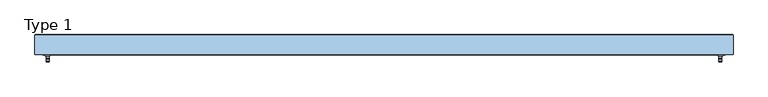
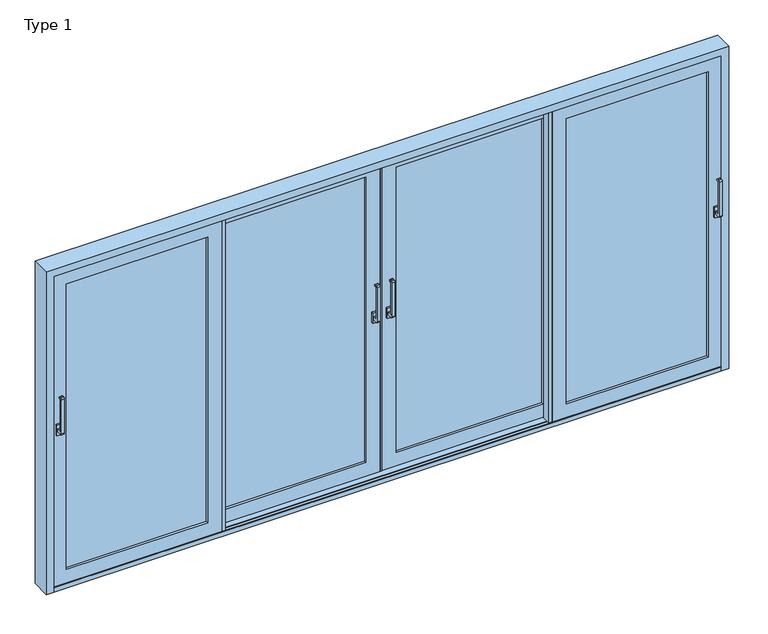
"""IFC4 building model written with IfcOpenShell, lengths in millimetres: window geometry, ETEM_E50_Quadruple_Lift_Sliding_FR : Type 1."""

import ifcopenshell
import ifcopenshell.guid

model = None  # the IFC model being written
_history = None  # IfcOwnerHistory: only IFC2X3 demands one
_inside = {}  # id of a spatial element -> (the spatial element, [elements in it])
_under = {}  # id of a project, library or spatial element -> (it, [spatial elements below it])
_declared = {}  # id of a project -> (the project, [libraries it declares])
_typed = {}  # id of a type object -> (the type object, [elements of that type])
_made_of = {}  # id of a material, layer set ... -> (it, [elements and type objects made of it])


def new_model(schema):
    """Start an empty IFC model of exactly this schema.

    Asked for "IFC4X3", IfcOpenShell would pick the latest addendum, in which some entities
    have other attributes; the version numbers below select the first issue.
    IFC2X3 requires an IfcOwnerHistory on every rooted entity: one is made here for all.
    """
    global model, _history
    if schema == "IFC4X3":
        model = ifcopenshell.file(schema_version=(4, 3, 0, 0))
    else:
        model = ifcopenshell.file(schema=schema)
    _inside.clear()
    _under.clear()
    _declared.clear()
    _typed.clear()
    _made_of.clear()
    _history = None
    if model.schema == "IFC2X3":
        org = make("IfcOrganization", Name="unknown")
        user = make(
            "IfcPersonAndOrganization",
            ThePerson=make("IfcPerson", FamilyName="unknown"),
            TheOrganization=org,
        )
        app = make(
            "IfcApplication",
            ApplicationDeveloper=org,
            Version="unknown",
            ApplicationFullName="unknown",
            ApplicationIdentifier="unknown",
        )
        _history = make(
            "IfcOwnerHistory",
            OwningUser=user,
            OwningApplication=app,
            ChangeAction="ADDED",
            CreationDate=0,
        )
    return model


def make(cls, **values):
    """One entity of the class cls with the attributes given. An attribute that is None is left unset."""
    return model.create_entity(
        cls, **{name: value for name, value in values.items() if value is not None}
    )


def rooted(cls, **values):
    """An entity with a GlobalId (a new one), such as an element, a storey or a relation."""
    return make(cls, GlobalId=ifcopenshell.guid.new(), OwnerHistory=_history, **values)


def si_unit(unit_type, name, prefix=None):
    """IfcSIUnit, for example si_unit("LENGTHUNIT", "METRE", prefix="MILLI")."""
    return make("IfcSIUnit", UnitType=unit_type, Prefix=prefix, Name=name)


def assignment(units):
    """IfcUnitAssignment: the units of a project."""
    return None if units is None else make("IfcUnitAssignment", Units=units)


def point(xyz):
    """IfcCartesianPoint."""
    return None if xyz is None else make("IfcCartesianPoint", Coordinates=xyz)


def direction(xyz):
    """IfcDirection."""
    return None if xyz is None else make("IfcDirection", DirectionRatios=xyz)


def frame(location, z_axis=None, x_axis=None):
    """IfcAxis2Placement3D, a coordinate frame: its origin and axes. An axis left out is left unset."""
    return make(
        "IfcAxis2Placement3D",
        Location=point(location),
        Axis=direction(z_axis),
        RefDirection=direction(x_axis),
    )


def frame_2d(location, x_axis=None):
    """IfcAxis2Placement2D, a coordinate frame in the plane: its origin and x axis."""
    return make(
        "IfcAxis2Placement2D", Location=point(location), RefDirection=direction(x_axis)
    )


def origin():
    """The frame at (0, 0, 0) with its axes left unset."""
    return frame((0.0, 0.0, 0.0))


def place(relative_to, where):
    """IfcLocalPlacement: puts the frame where relative to a parent placement (None: the world)."""
    return make(
        "IfcLocalPlacement", PlacementRelTo=relative_to, RelativePlacement=where
    )


def context(
    kind, dimensions, precision=None, world=None, true_north=None, identifier=None
):
    """IfcGeometricRepresentationContext, for example the 3D "Model" context."""
    return make(
        "IfcGeometricRepresentationContext",
        ContextIdentifier=identifier,
        ContextType=kind,
        CoordinateSpaceDimension=dimensions,
        Precision=precision,
        WorldCoordinateSystem=world,
        TrueNorth=true_north,
    )


def project(units=None, contexts=None):
    """IfcProject with its units and contexts."""
    return rooted(
        "IfcProject",
        Name="project",
        RepresentationContexts=contexts,
        UnitsInContext=assignment(units),
    )


def spatial(cls, under=None, at=None, **own):
    """A site, building, storey or space (cls), placed at a placement, below another one or the project."""
    s = rooted(cls, ObjectPlacement=at, **own)
    if under is not None:
        _under.setdefault(under.id(), (under, []))[1].append(s)
    return s


def polyline(points):
    """IfcPolyline through the points."""
    return make("IfcPolyline", Points=[point(p) for p in points])


def circle_curve(where, radius):
    """IfcCircle in the frame where."""
    return make("IfcCircle", Position=where, Radius=radius)


def trimmed(basis, trim1, trim2, sense, master):
    """IfcTrimmedCurve: the piece of a basis curve between two trims."""
    return make(
        "IfcTrimmedCurve",
        BasisCurve=basis,
        Trim1=trim1,
        Trim2=trim2,
        SenseAgreement=sense,
        MasterRepresentation=master,
    )


def segment(curve, same_sense, transition):
    """IfcCompositeCurveSegment."""
    return make(
        "IfcCompositeCurveSegment",
        Transition=transition,
        SameSense=same_sense,
        ParentCurve=curve,
    )


def composite_curve(segments, self_intersect=None):
    """IfcCompositeCurve: segments joined end to end."""
    return make("IfcCompositeCurve", Segments=segments, SelfIntersect=self_intersect)


def outline(outer, holes=None, kind="AREA"):
    """IfcArbitraryClosedProfileDef: a profile drawn as a closed curve; with holes, ...WithVoids."""
    if holes is None:
        return make("IfcArbitraryClosedProfileDef", ProfileType=kind, OuterCurve=outer)
    return make(
        "IfcArbitraryProfileDefWithVoids",
        ProfileType=kind,
        OuterCurve=outer,
        InnerCurves=holes,
    )


def extrude(swept, where, along, depth):
    """IfcExtrudedAreaSolid: the profile swept, set in the frame where, extruded along a direction by depth."""
    return make(
        "IfcExtrudedAreaSolid",
        SweptArea=swept,
        Position=where,
        ExtrudedDirection=direction(along),
        Depth=depth,
    )


def faces_of(points, faces, orient=None, outer=None):
    """IfcFace entities. A face is a list of loops; a loop is a list of indices into points, from 0.

    orient and outer hold one flag for each loop. By default every Orientation is true, the
    first loop of a face is its IfcFaceOuterBound and the others are IfcFaceBound.
    """
    made = []
    for i, loops in enumerate(faces):
        bounds = []
        for j, loop in enumerate(loops):
            is_outer = j == 0 if outer is None else outer[i][j]
            bounds.append(
                make(
                    "IfcFaceOuterBound" if is_outer else "IfcFaceBound",
                    Bound=make("IfcPolyLoop", Polygon=[points[k] for k in loop]),
                    Orientation=True if orient is None else orient[i][j],
                )
            )
        made.append(make("IfcFace", Bounds=bounds))
    return made


def faceted_brep(points, faces, orient=None, outer=None, voids=None):
    """IfcFacetedBrep: a solid bounded by flat faces; with voids (closed shells), ...WithVoids."""
    shared = [point(p) for p in points]
    hull = make("IfcClosedShell", CfsFaces=faces_of(shared, faces, orient, outer))
    if voids is None:
        return make("IfcFacetedBrep", Outer=hull)
    return make(
        "IfcFacetedBrepWithVoids",
        Outer=hull,
        Voids=[
            make(cls, CfsFaces=faces_of(shared, fs, o, b)) for cls, fs, o, b in voids
        ],
    )


def shape(context_of_items, identifier, shape_type, items):
    """IfcShapeRepresentation: the items that make up one representation, for example the "Body"."""
    return make(
        "IfcShapeRepresentation",
        ContextOfItems=context_of_items,
        RepresentationIdentifier=identifier,
        RepresentationType=shape_type,
        Items=items,
    )


def source(mapping_origin, context_of_items, identifier, shape_type, items):
    """IfcRepresentationMap: a shape defined once, which mapped items show again and again."""
    return make(
        "IfcRepresentationMap",
        MappingOrigin=mapping_origin,
        MappedRepresentation=shape(context_of_items, identifier, shape_type, items),
    )


def transform(
    local_origin,
    x_axis=None,
    y_axis=None,
    z_axis=None,
    scale=None,
    scale2=None,
    scale3=None,
    uniform=True,
):
    """IfcCartesianTransformationOperator3D, or its non-uniform kind. x_axis, y_axis, z_axis: its Axis1, 2, 3."""
    if uniform:
        return make(
            "IfcCartesianTransformationOperator3D",
            Axis1=direction(x_axis),
            Axis2=direction(y_axis),
            LocalOrigin=point(local_origin),
            Scale=scale,
            Axis3=direction(z_axis),
        )
    return make(
        "IfcCartesianTransformationOperator3DnonUniform",
        Axis1=direction(x_axis),
        Axis2=direction(y_axis),
        LocalOrigin=point(local_origin),
        Scale=scale,
        Axis3=direction(z_axis),
        Scale2=scale2,
        Scale3=scale3,
    )


def mapped(mapping_source, mapping_target):
    """IfcMappedItem: shows the shape of a source again, moved by a transform."""
    return make(
        "IfcMappedItem", MappingSource=mapping_source, MappingTarget=mapping_target
    )


def made_of(thing, what):
    """Note that an element or type object is made of a material, layer set ...; save() writes the relation."""
    if what is not None:
        _made_of.setdefault(what.id(), (what, []))[1].append(thing)
    return thing


def element(
    cls,
    number,
    at=None,
    inside=None,
    cuts=None,
    type_object=None,
    material=None,
    context=None,
    identifier="Body",
    shape_type=None,
    held_by="IfcProductDefinitionShape",
    body=None,
    shapes=None,
    **own,
):
    """One element of the class cls, such as IfcWall. Its Tag is "e" and its number.

    at: its placement. inside: the storey or other place that contains it. cuts: it is an
    opening in that element (IfcRelVoidsElement). A single representation is given by context,
    identifier, shape_type and body (its items); several are given by shapes. held_by: the class
    of the entity that holds the representations. save() writes the other relations.
    """
    e = rooted(cls, Tag="e%d" % number, ObjectPlacement=at, **own)
    if body is not None:
        shapes = [shape(context, identifier, shape_type, body)]
    if shapes is not None:
        e.Representation = make(held_by, Representations=shapes)
    if inside is not None:
        _inside.setdefault(inside.id(), (inside, []))[1].append(e)
    if cuts is not None:
        rooted(
            "IfcRelVoidsElement", RelatingBuildingElement=cuts, RelatedOpeningElement=e
        )
    if type_object is not None:
        _typed.setdefault(type_object.id(), (type_object, []))[1].append(e)
    return made_of(e, material)


def aggregate(whole, parts):
    """IfcRelAggregates: a whole, such as a stair, and the parts it consists of."""
    return rooted("IfcRelAggregates", RelatingObject=whole, RelatedObjects=parts)


def save(model, path):
    """Write the relations noted so far, then the file.

    IfcRelAggregates (storeys below a building ...), IfcRelContainedInSpatialStructure (elements
    in a storey), IfcRelDefinesByType, IfcRelAssociatesMaterial and IfcRelDeclares: one each for
    every whole, place, type object, material and project.
    """
    for whole, parts in _under.values():
        aggregate(whole, parts)
    for where, things in _inside.values():
        rooted(
            "IfcRelContainedInSpatialStructure",
            RelatedElements=things,
            RelatingStructure=where,
        )
    for kind, things in _typed.values():
        rooted("IfcRelDefinesByType", RelatedObjects=things, RelatingType=kind)
    for what, things in _made_of.values():
        rooted("IfcRelAssociatesMaterial", RelatedObjects=things, RelatingMaterial=what)
    for by, libraries in _declared.values():
        rooted("IfcRelDeclares", RelatingContext=by, RelatedDefinitions=libraries)
    model.write(path)


def type_1_025a0579(model_context):
    return source(origin(), model_context, "Body", "SolidModel", [
        extrude(outline(composite_curve([segment(polyline([(-28.6518056, 1090.0), (-60.2254904, 1090.0)]), True, "CONTINUOUS"), segment(trimmed(circle_curve(frame_2d((-60.2254904, 1098.4263152)), 8.4263152), [point((-60.2254904, 1090.0))], [point((-68.6518056, 1098.4263152))], False, "CARTESIAN"), True, "CONTINUOUS"), segment(polyline([(-68.6518056, 1098.4263152), (-68.6518056, 1331.5736848)]), True, "CONTINUOUS"), segment(trimmed(circle_curve(frame_2d((-60.2254904, 1331.5736848)), 8.4263152), [point((-68.6518056, 1331.5736848))], [point((-60.2254904, 1340.0))], False, "CARTESIAN"), True, "CONTINUOUS"), segment(polyline([(-60.2254904, 1340.0), (-48.6518056, 1340.0)]), True, "CONTINUOUS"), segment(trimmed(circle_curve(frame_2d((-48.6518056, 1335.0)), 5.0), [point((-48.6518056, 1340.0))], [point((-48.6518056, 1330.0))], False, "CARTESIAN"), True, "CONTINUOUS"), segment(polyline([(-48.6518056, 1330.0), (-55.1162717, 1330.0)]), True, "CONTINUOUS"), segment(trimmed(circle_curve(frame_2d((-55.1162717, 1326.4644661)), 3.5355339), [point((-55.1162717, 1330.0))], [point((-58.6518056, 1326.4644661))], True, "CARTESIAN"), True, "CONTINUOUS"), segment(polyline([(-58.6518056, 1326.4644661), (-58.6518056, 1113.5355339)]), True, "CONTINUOUS"), segment(trimmed(circle_curve(frame_2d((-55.1162717, 1113.5355339)), 3.5355339), [point((-58.6518056, 1113.5355339))], [point((-55.1162717, 1110.0))], True, "CARTESIAN"), True, "CONTINUOUS"), segment(polyline([(-55.1162717, 1110.0), (-28.6518056, 1110.0), (-28.6518056, 1090.0)]), True, "CONTINUOUS")], self_intersect=False)), frame((2109.999965, 0.0, 0.0), z_axis=(1.0, 0.0, 0.0), x_axis=(0.0, 1.0, 0.0)), (0.0, 0.0, 1.0), 20.0),
        extrude(outline(polyline([(2104.999965, -28.6518056), (2104.999965, -15.6518056), (2134.999965, -15.6518056), (2134.999965, -28.6518056), (2104.999965, -28.6518056)])), frame((0.0, 0.0, 1065.0), z_axis=(0.0, 0.0, 1.0), x_axis=(1.0, 0.0, 0.0)), (0.0, 0.0, 1.0), 70.0),
        extrude(outline(composite_curve([segment(polyline([(-28.6518056, 1090.0), (-60.2254904, 1090.0)]), True, "CONTINUOUS"), segment(trimmed(circle_curve(frame_2d((-60.2254904, 1098.4263152)), 8.4263152), [point((-60.2254904, 1090.0))], [point((-68.6518056, 1098.4263152))], False, "CARTESIAN"), True, "CONTINUOUS"), segment(polyline([(-68.6518056, 1098.4263152), (-68.6518056, 1331.5736848)]), True, "CONTINUOUS"), segment(trimmed(circle_curve(frame_2d((-60.2254904, 1331.5736848)), 8.4263152), [point((-68.6518056, 1331.5736848))], [point((-60.2254904, 1340.0))], False, "CARTESIAN"), True, "CONTINUOUS"), segment(polyline([(-60.2254904, 1340.0), (-48.6518056, 1340.0)]), True, "CONTINUOUS"), segment(trimmed(circle_curve(frame_2d((-48.6518056, 1335.0)), 5.0), [point((-48.6518056, 1340.0))], [point((-48.6518056, 1330.0))], False, "CARTESIAN"), True, "CONTINUOUS"), segment(polyline([(-48.6518056, 1330.0), (-55.1162717, 1330.0)]), True, "CONTINUOUS"), segment(trimmed(circle_curve(frame_2d((-55.1162717, 1326.4644661)), 3.5355339), [point((-55.1162717, 1330.0))], [point((-58.6518056, 1326.4644661))], True, "CARTESIAN"), True, "CONTINUOUS"), segment(polyline([(-58.6518056, 1326.4644661), (-58.6518056, 1113.5355339)]), True, "CONTINUOUS"), segment(trimmed(circle_curve(frame_2d((-55.1162717, 1113.5355339)), 3.5355339), [point((-58.6518056, 1113.5355339))], [point((-55.1162717, 1110.0))], True, "CARTESIAN"), True, "CONTINUOUS"), segment(polyline([(-55.1162717, 1110.0), (-28.6518056, 1110.0), (-28.6518056, 1090.0)]), True, "CONTINUOUS")], self_intersect=False)), frame((-2129.999965, 0.0, 0.0), z_axis=(1.0, 0.0, 0.0), x_axis=(0.0, 1.0, 0.0)), (0.0, 0.0, 1.0), 20.0),
        extrude(outline(polyline([(-2134.999965, -28.6518056), (-2134.999965, -15.6518056), (-2104.999965, -15.6518056), (-2104.999965, -28.6518056), (-2134.999965, -28.6518056)])), frame((0.0, 0.0, 1065.0), z_axis=(0.0, 0.0, 1.0), x_axis=(1.0, 0.0, 0.0)), (0.0, 0.0, 1.0), 70.0),
        extrude(outline(composite_curve([segment(polyline([(36.3481944, 1090.0), (4.7745096, 1090.0)]), True, "CONTINUOUS"), segment(trimmed(circle_curve(frame_2d((4.7745096, 1098.4263152)), 8.4263152), [point((4.7745096, 1090.0))], [point((-3.6518056, 1098.4263152))], False, "CARTESIAN"), True, "CONTINUOUS"), segment(polyline([(-3.6518056, 1098.4263152), (-3.6518056, 1331.5736848)]), True, "CONTINUOUS"), segment(trimmed(circle_curve(frame_2d((4.7745096, 1331.5736848)), 8.4263152), [point((-3.6518056, 1331.5736848))], [point((4.7745096, 1340.0))], False, "CARTESIAN"), True, "CONTINUOUS"), segment(polyline([(4.7745096, 1340.0), (16.3481944, 1340.0)]), True, "CONTINUOUS"), segment(trimmed(circle_curve(frame_2d((16.3481944, 1335.0)), 5.0), [point((16.3481944, 1340.0))], [point((16.3481944, 1330.0))], False, "CARTESIAN"), True, "CONTINUOUS"), segment(polyline([(16.3481944, 1330.0), (9.8837283, 1330.0)]), True, "CONTINUOUS"), segment(trimmed(circle_curve(frame_2d((9.8837283, 1326.4644661)), 3.5355339), [point((9.8837283, 1330.0))], [point((6.3481944, 1326.4644661))], True, "CARTESIAN"), True, "CONTINUOUS"), segment(polyline([(6.3481944, 1326.4644661), (6.3481944, 1113.5355339)]), True, "CONTINUOUS"), segment(trimmed(circle_curve(frame_2d((9.8837283, 1113.5355339)), 3.5355339), [point((6.3481944, 1113.5355339))], [point((9.8837283, 1110.0))], True, "CARTESIAN"), True, "CONTINUOUS"), segment(polyline([(9.8837283, 1110.0), (36.3481944, 1110.0), (36.3481944, 1090.0)]), True, "CONTINUOUS")], self_intersect=False)), frame((-57.5, 0.0, 0.0), z_axis=(1.0, 0.0, 0.0), x_axis=(0.0, 1.0, 0.0)), (0.0, 0.0, 1.0), 20.0),
        extrude(outline(polyline([(-62.5, 36.3481944), (-62.5, 49.3481944), (-32.5, 49.3481944), (-32.5, 36.3481944), (-62.5, 36.3481944)])), frame((0.0, 0.0, 1065.0), z_axis=(0.0, 0.0, 1.0), x_axis=(1.0, 0.0, 0.0)), (0.0, 0.0, 1.0), 70.0),
        extrude(outline(composite_curve([segment(polyline([(36.3481944, 1090.0), (4.7745096, 1090.0)]), True, "CONTINUOUS"), segment(trimmed(circle_curve(frame_2d((4.7745096, 1098.4263152)), 8.4263152), [point((4.7745096, 1090.0))], [point((-3.6518056, 1098.4263152))], False, "CARTESIAN"), True, "CONTINUOUS"), segment(polyline([(-3.6518056, 1098.4263152), (-3.6518056, 1331.5736848)]), True, "CONTINUOUS"), segment(trimmed(circle_curve(frame_2d((4.7745096, 1331.5736848)), 8.4263152), [point((-3.6518056, 1331.5736848))], [point((4.7745096, 1340.0))], False, "CARTESIAN"), True, "CONTINUOUS"), segment(polyline([(4.7745096, 1340.0), (16.3481944, 1340.0)]), True, "CONTINUOUS"), segment(trimmed(circle_curve(frame_2d((16.3481944, 1335.0)), 5.0), [point((16.3481944, 1340.0))], [point((16.3481944, 1330.0))], False, "CARTESIAN"), True, "CONTINUOUS"), segment(polyline([(16.3481944, 1330.0), (9.8837283, 1330.0)]), True, "CONTINUOUS"), segment(trimmed(circle_curve(frame_2d((9.8837283, 1326.4644661)), 3.5355339), [point((9.8837283, 1330.0))], [point((6.3481944, 1326.4644661))], True, "CARTESIAN"), True, "CONTINUOUS"), segment(polyline([(6.3481944, 1326.4644661), (6.3481944, 1113.5355339)]), True, "CONTINUOUS"), segment(trimmed(circle_curve(frame_2d((9.8837283, 1113.5355339)), 3.5355339), [point((6.3481944, 1113.5355339))], [point((9.8837283, 1110.0))], True, "CARTESIAN"), True, "CONTINUOUS"), segment(polyline([(9.8837283, 1110.0), (36.3481944, 1110.0), (36.3481944, 1090.0)]), True, "CONTINUOUS")], self_intersect=False)), frame((37.5, 0.0, 0.0), z_axis=(1.0, 0.0, 0.0), x_axis=(0.0, 1.0, 0.0)), (0.0, 0.0, 1.0), 20.0),
        extrude(outline(polyline([(62.5, 36.3481944), (32.5, 36.3481944), (32.5, 49.3481944), (62.5, 49.3481944), (62.5, 36.3481944)])), frame((0.0, 0.0, 1065.0), z_axis=(0.0, 0.0, 1.0), x_axis=(1.0, 0.0, 0.0)), (0.0, 0.0, 1.0), 70.0),
        faceted_brep([(1044.0, 49.3481944, 2069.0), (1044.0, 99.3481944, 2069.0), (1044.0, 99.3481944, 121.470192), (1044.0, 49.3481944, 121.470192), (1135.5, 99.3481944, 29.970192), (7.0252518, 99.3481944, 29.970192), (7.0252518, 99.3481944, 2160.5), (1135.5, 99.3481944, 2160.5), (98.5252518, 99.3481944, 2069.0), (98.5252518, 99.3481944, 121.470192), (98.5252518, 49.3481944, 121.470192), (1135.5, 49.3481944, 2160.5), (7.0252518, 49.3481944, 2160.5), (7.0252518, 49.3481944, 29.970192), (1135.5, 49.3481944, 29.970192), (98.5252518, 49.3481944, 2069.0), (1135.5, 54.0481944, 2160.5), (1135.5, 54.0481944, 29.970192), (7.0252518, 54.0481944, 29.970192), (7.0252518, 54.0481944, 2160.5), (1106.3, 54.0481944, 2131.3), (36.2252518, 54.0481944, 2131.3), (36.2252518, 54.0481944, 59.170192), (1106.3, 54.0481944, 59.170192), (1106.3, 94.6481944, 2131.3), (1106.3, 94.6481944, 59.170192), (36.2252518, 94.6481944, 59.170192), (1135.5, 94.6481944, 2160.5), (7.0252518, 94.6481944, 2160.5), (7.0252518, 94.6481944, 29.970192), (1135.5, 94.6481944, 29.970192), (36.2252518, 94.6481944, 2131.3)], [[[0, 1, 2, 3]], [[4, 5, 6, 7], [1, 8, 9, 2]], [[3, 2, 9, 10]], [[11, 12, 13, 14], [3, 10, 15, 0]], [[16, 11, 14, 17]], [[17, 14, 13, 18]], [[17, 18, 19, 16], [20, 21, 22, 23]], [[24, 20, 23, 25]], [[25, 23, 22, 26]], [[27, 28, 29, 30], [25, 26, 31, 24]], [[7, 27, 30, 4]], [[4, 30, 29, 5]], [[10, 9, 8, 15]], [[18, 13, 12, 19]], [[26, 22, 21, 31]], [[5, 29, 28, 6]], [[15, 8, 1, 0]], [[19, 12, 11, 16]], [[31, 21, 20, 24]], [[6, 28, 27, 7]]]),
        extrude(outline(polyline([(1156.0, 38.3481944), (1135.5, 38.3481944), (1135.5, 99.3481944), (1156.0, 99.3481944), (1156.0, 38.3481944)])), frame((0.0, 0.0, 29.970192), z_axis=(0.0, 0.0, 1.0), x_axis=(1.0, 0.0, 0.0)), (0.0, 0.0, 1.0), 2130.529808),
        extrude(outline(polyline([(1044.0, 45.3481944), (1064.5, 45.3481944), (1064.5, -15.6518056), (1044.0, -15.6518056), (1044.0, 45.3481944)])), frame((0.0, 0.0, 29.970192), z_axis=(0.0, 0.0, 1.0), x_axis=(1.0, 0.0, 0.0)), (0.0, 0.0, 1.0), 2130.529808),
        extrude(outline(polyline([(98.5, 91.3480733), (1044.0, 91.3480733), (1044.0, 86.3480733), (98.5, 86.3480733), (98.5, 91.3480733)])), frame((0.0, 0.0, 121.470192), z_axis=(0.0, 0.0, 1.0), x_axis=(1.0, 0.0, 0.0)), (0.0, 0.0, 1.0), 1947.529808),
        extrude(outline(polyline([(1156.0, 26.3481944), (2068.999965, 26.3481944), (2068.999965, 21.3481944), (1156.0, 21.3481944), (1156.0, 26.3481944)])), frame((0.0, 0.0, 121.470192), z_axis=(0.0, 0.0, 1.0), x_axis=(1.0, 0.0, 0.0)), (0.0, 0.0, 1.0), 1947.529808),
        extrude(outline(polyline([(98.5, 70.3481944), (1044.0, 70.3481944), (1044.0, 65.3481944), (98.5, 65.3481944), (98.5, 70.3481944)])), frame((0.0, 0.0, 121.470192), z_axis=(0.0, 0.0, 1.0), x_axis=(1.0, 0.0, 0.0)), (0.0, 0.0, 1.0), 1947.529808),
        extrude(outline(polyline([(1156.0, 5.3481944), (2068.999965, 5.3481944), (2068.999965, 0.3481944), (1156.0, 0.3481944), (1156.0, 5.3481944)])), frame((0.0, 0.0, 121.470192), z_axis=(0.0, 0.0, 1.0), x_axis=(1.0, 0.0, 0.0)), (0.0, 0.0, 1.0), 1947.529808),
        faceted_brep([(-98.5252518, 49.3481944, 2069.0), (-98.5252518, 99.3481944, 2069.0), (-98.5252518, 99.3481944, 121.470192), (-98.5252518, 49.3481944, 121.470192), (-7.0252518, 99.3481944, 29.970192), (-1135.5, 99.3481944, 29.970192), (-1135.5, 99.3481944, 2160.5), (-7.0252518, 99.3481944, 2160.5), (-1044.0, 99.3481944, 2069.0), (-1044.0, 99.3481944, 121.470192), (-1044.0, 49.3481944, 121.470192), (-7.0252518, 49.3481944, 2160.5), (-1135.5, 49.3481944, 2160.5), (-1135.5, 49.3481944, 29.970192), (-7.0252518, 49.3481944, 29.970192), (-1044.0, 49.3481944, 2069.0), (-7.0252518, 54.0481944, 2160.5), (-7.0252518, 54.0481944, 29.970192), (-1135.5, 54.0481944, 29.970192), (-1135.5, 54.0481944, 2160.5), (-36.2252518, 54.0481944, 2131.3), (-1106.3, 54.0481944, 2131.3), (-1106.3, 54.0481944, 59.170192), (-36.2252518, 54.0481944, 59.170192), (-36.2252518, 94.6481944, 2131.3), (-36.2252518, 94.6481944, 59.170192), (-1106.3, 94.6481944, 59.170192), (-7.0252518, 94.6481944, 2160.5), (-1135.5, 94.6481944, 2160.5), (-1135.5, 94.6481944, 29.970192), (-7.0252518, 94.6481944, 29.970192), (-1106.3, 94.6481944, 2131.3)], [[[0, 1, 2, 3]], [[4, 5, 6, 7], [1, 8, 9, 2]], [[3, 2, 9, 10]], [[11, 12, 13, 14], [3, 10, 15, 0]], [[16, 11, 14, 17]], [[17, 14, 13, 18]], [[17, 18, 19, 16], [20, 21, 22, 23]], [[24, 20, 23, 25]], [[25, 23, 22, 26]], [[27, 28, 29, 30], [25, 26, 31, 24]], [[7, 27, 30, 4]], [[4, 30, 29, 5]], [[10, 9, 8, 15]], [[18, 13, 12, 19]], [[26, 22, 21, 31]], [[5, 29, 28, 6]], [[15, 8, 1, 0]], [[19, 12, 11, 16]], [[31, 21, 20, 24]], [[6, 28, 27, 7]]]),
        extrude(outline(polyline([(-1044.0, 91.3480733), (-98.5, 91.3480733), (-98.5, 86.3480733), (-1044.0, 86.3480733), (-1044.0, 91.3480733)])), frame((0.0, 0.0, 121.470192), z_axis=(0.0, 0.0, 1.0), x_axis=(1.0, 0.0, 0.0)), (0.0, 0.0, 1.0), 1947.529808),
        extrude(outline(polyline([(-1044.0, 70.3481944), (-98.5, 70.3481944), (-98.5, 65.3481944), (-1044.0, 65.3481944), (-1044.0, 70.3481944)])), frame((0.0, 0.0, 121.470192), z_axis=(0.0, 0.0, 1.0), x_axis=(1.0, 0.0, 0.0)), (0.0, 0.0, 1.0), 1947.529808),
        faceted_brep([(-1156.0, -15.6518056, 2069.0), (-1156.0, 34.3481944, 2069.0), (-1156.0, 34.3481944, 121.470192), (-1156.0, -15.6518056, 121.470192), (-2068.999965, 34.3481944, 121.470192), (-2068.999965, -15.6518056, 121.470192), (-2160.499965, 34.3481944, 29.970192), (-2160.499965, 34.3481944, 2160.5), (-1064.5, 34.3481944, 2160.5), (-1064.5, 34.3481944, 29.970192), (-2068.999965, 34.3481944, 2069.0), (-2068.999965, -15.6518056, 2069.0), (-1064.5, -15.6518056, 29.970192), (-1064.5, -15.6518056, 2160.5), (-2160.499965, -15.6518056, 2160.5), (-2160.499965, -15.6518056, 29.970192), (-1064.5, -10.9518056, 2160.5), (-1064.5, -10.9518056, 29.970192), (-2160.499965, -10.9518056, 29.970192), (-2160.499965, -10.9518056, 2160.5), (-1093.7, -10.9518056, 59.170192), (-1093.7, -10.9518056, 2131.3), (-2131.299965, -10.9518056, 2131.3), (-2131.299965, -10.9518056, 59.170192), (-1093.7, 29.6481944, 2131.3), (-1093.7, 29.6481944, 59.170192), (-2131.299965, 29.6481944, 59.170192), (-2131.299965, 29.6481944, 2131.3), (-1064.5, 29.6481944, 29.970192), (-1064.5, 29.6481944, 2160.5), (-2160.499965, 29.6481944, 2160.5), (-2160.499965, 29.6481944, 29.970192)], [[[0, 1, 2, 3]], [[3, 2, 4, 5]], [[6, 7, 8, 9], [2, 1, 10, 4]], [[5, 4, 10, 11]], [[12, 13, 14, 15], [5, 11, 0, 3]], [[16, 13, 12, 17]], [[17, 12, 15, 18]], [[18, 15, 14, 19]], [[18, 19, 16, 17], [20, 21, 22, 23]], [[24, 21, 20, 25]], [[25, 20, 23, 26]], [[26, 23, 22, 27]], [[28, 29, 30, 31], [26, 27, 24, 25]], [[8, 29, 28, 9]], [[9, 28, 31, 6]], [[6, 31, 30, 7]], [[11, 10, 1, 0]], [[19, 14, 13, 16]], [[27, 22, 21, 24]], [[7, 30, 29, 8]]]),
        extrude(outline(polyline([(-1044.0, 45.3481944), (-1044.0, -15.6518056), (-1064.5, -15.6518056), (-1064.5, 45.3481944), (-1044.0, 45.3481944)])), frame((0.0, 0.0, 29.970192), z_axis=(0.0, 0.0, 1.0), x_axis=(1.0, 0.0, 0.0)), (0.0, 0.0, 1.0), 2130.529808),
        extrude(outline(polyline([(-1156.0, 38.3481944), (-1156.0, 99.3481944), (-1135.5, 99.3481944), (-1135.5, 38.3481944), (-1156.0, 38.3481944)])), frame((0.0, 0.0, 29.970192), z_axis=(0.0, 0.0, 1.0), x_axis=(1.0, 0.0, 0.0)), (0.0, 0.0, 1.0), 2130.529808),
        extrude(outline(polyline([(-2068.999965, 26.3480733), (-1156.0, 26.3480733), (-1156.0, 21.3480733), (-2068.999965, 21.3480733), (-2068.999965, 26.3480733)])), frame((0.0, 0.0, 121.470192), z_axis=(0.0, 0.0, 1.0), x_axis=(1.0, 0.0, 0.0)), (0.0, 0.0, 1.0), 1947.529808),
        extrude(outline(polyline([(-2068.999965, 5.3481944), (-1156.0, 5.3481944), (-1156.0, 0.3481944), (-2068.999965, 0.3481944), (-2068.999965, 5.3481944)])), frame((0.0, 0.0, 121.470192), z_axis=(0.0, 0.0, 1.0), x_axis=(1.0, 0.0, 0.0)), (0.0, 0.0, 1.0), 1947.529808),
        extrude(outline(polyline([(3.5, 58.3481944), (3.5, 49.3481944), (-7.0252518, 49.3481944), (-7.0252518, 99.3481944), (3.5, 99.3481944), (3.5, 90.3481944), (16.0, 90.3481944), (16.0, 58.3481944), (3.5, 58.3481944)])), frame((0.0, 0.0, 29.9890213), z_axis=(0.0, 0.0, 1.0), x_axis=(1.0, 0.0, 0.0)), (0.0, 0.0, 1.0), 2130.4921495),
        faceted_brep([(2068.999965, -15.6518056, 2069.0), (2068.999965, 34.3481944, 2069.0), (2068.999965, 34.3481944, 121.470192), (2068.999965, -15.6518056, 121.470192), (1156.0, 34.3481944, 121.470192), (1156.0, -15.6518056, 121.470192), (1064.5, 34.3481944, 29.970192), (1064.5, 34.3481944, 2160.5), (2160.499965, 34.3481944, 2160.5), (2160.499965, 34.3481944, 29.970192), (1156.0, 34.3481944, 2069.0), (1156.0, -15.6518056, 2069.0), (2160.499965, -15.6518056, 29.970192), (2160.499965, -15.6518056, 2160.5), (1064.5, -15.6518056, 2160.5), (1064.5, -15.6518056, 29.970192), (2160.499965, -10.9518056, 2160.5), (2160.499965, -10.9518056, 29.970192), (1064.5, -10.9518056, 29.970192), (1064.5, -10.9518056, 2160.5), (2131.299965, -10.9518056, 59.170192), (2131.299965, -10.9518056, 2131.3), (1093.7, -10.9518056, 2131.3), (1093.7, -10.9518056, 59.170192), (2131.299965, 29.6481944, 2131.3), (2131.299965, 29.6481944, 59.170192), (1093.7, 29.6481944, 59.170192), (1093.7, 29.6481944, 2131.3), (2160.499965, 29.6481944, 29.970192), (2160.499965, 29.6481944, 2160.5), (1064.5, 29.6481944, 2160.5), (1064.5, 29.6481944, 29.970192)], [[[0, 1, 2, 3]], [[3, 2, 4, 5]], [[6, 7, 8, 9], [2, 1, 10, 4]], [[5, 4, 10, 11]], [[12, 13, 14, 15], [5, 11, 0, 3]], [[16, 13, 12, 17]], [[17, 12, 15, 18]], [[18, 15, 14, 19]], [[18, 19, 16, 17], [20, 21, 22, 23]], [[24, 21, 20, 25]], [[25, 20, 23, 26]], [[26, 23, 22, 27]], [[28, 29, 30, 31], [26, 27, 24, 25]], [[8, 29, 28, 9]], [[9, 28, 31, 6]], [[6, 31, 30, 7]], [[11, 10, 1, 0]], [[19, 14, 13, 16]], [[27, 22, 21, 24]], [[7, 30, 29, 8]]]),
        faceted_brep([(-2196.5, 105.0, 0.0), (-2196.5, 103.5481944, 0.0), (-2196.5, 103.5481944, 2196.5), (-2196.5, 105.0, 2196.5), (-2151.5, 105.0, 0.0), (2196.5, 105.0, 2196.5), (2196.5, 105.0, 0.0), (2151.5, 105.0, 0.0), (2151.5, 105.0, 2151.5), (-2151.5, 105.0, 2151.5), (-2151.5, 101.4, 0.0), (-2151.5, 101.4, 2151.5), (2151.5, 101.4, 0.0), (2151.5, 101.4, 2151.5), (2196.5, 103.5481944, 0.0), (2196.5, 103.5481944, 2196.5), (2200.0, -21.2518056, 0.0), (2200.0, 103.5481944, 0.0), (2200.0, 103.5481944, 2200.0), (2200.0, -21.2518056, 2200.0), (2178.2, 78.8481944, 0.0), (2178.2, 78.8481944, 2178.2), (2178.2, 101.4, 2178.2), (2178.2, 101.4, 0.0), (2159.5, 78.8481944, 0.0), (2159.5, 90.3481944, 0.0), (2159.5, 90.3481944, 2159.5), (2159.5, 78.8481944, 2159.5), (2151.5, 90.3481944, 0.0), (2151.5, 58.3481944, 0.0), (2151.5, 58.3481944, 2151.5), (2151.5, 90.3481944, 2151.5), (2159.5, 58.3481944, 0.0), (2159.5, 69.8481944, 0.0), (2159.5, 69.8481944, 2159.5), (2159.5, 58.3481944, 2159.5), (2178.2, 69.8481944, 0.0), (2178.2, 13.8481944, 0.0), (2178.2, 13.8481944, 2178.2), (2178.2, 69.8481944, 2178.2), (2159.5, 13.8481944, 0.0), (2159.5, 25.3481944, 0.0), (2159.5, 25.3481944, 2159.5), (2159.5, 13.8481944, 2159.5), (2151.5, 25.3481944, 0.0), (2151.5, -6.6518056, 0.0), (2151.5, -6.6518056, 2151.5), (2151.5, 25.3481944, 2151.5), (2159.5, -6.6518056, 0.0), (2159.5, 4.8481944, 0.0), (2159.5, 4.8481944, 2159.5), (2159.5, -6.6518056, 2159.5), (2178.2, 4.8481944, 0.0), (2178.2, -17.6518056, 0.0), (2178.2, -17.6518056, 2178.2), (2178.2, 4.8481944, 2178.2), (2151.5, -17.6518056, 0.0), (2151.5, -21.2518056, 0.0), (2151.5, -21.2518056, 2151.5), (2151.5, -17.6518056, 2151.5), (-2200.0, 103.5481944, 0.0), (-2200.0, -21.2518056, 0.0), (-2200.0, -21.2518056, 2200.0), (-2200.0, 103.5481944, 2200.0), (-2178.2, 101.4, 0.0), (-2178.2, 101.4, 2178.2), (-2178.2, 78.8481944, 2178.2), (-2178.2, 78.8481944, 0.0), (-2159.5, 90.3481944, 0.0), (-2159.5, 78.8481944, 0.0), (-2159.5, 78.8481944, 2159.5), (-2159.5, 90.3481944, 2159.5), (-2151.5, 58.3481944, 0.0), (-2151.5, 90.3481944, 0.0), (-2151.5, 90.3481944, 2151.5), (-2151.5, 58.3481944, 2151.5), (-2159.5, 69.8481944, 0.0), (-2159.5, 58.3481944, 0.0), (-2159.5, 58.3481944, 2159.5), (-2159.5, 69.8481944, 2159.5), (-2178.2, 13.8481944, 0.0), (-2178.2, 69.8481944, 0.0), (-2178.2, 69.8481944, 2178.2), (-2178.2, 13.8481944, 2178.2), (-2159.5, 25.3481944, 0.0), (-2159.5, 13.8481944, 0.0), (-2159.5, 13.8481944, 2159.5), (-2159.5, 25.3481944, 2159.5), (-2151.5, -6.6518056, 0.0), (-2151.5, 25.3481944, 0.0), (-2151.5, 25.3481944, 2151.5), (-2151.5, -6.6518056, 2151.5), (-2159.5, 4.8481944, 0.0), (-2159.5, -6.6518056, 0.0), (-2159.5, -6.6518056, 2159.5), (-2159.5, 4.8481944, 2159.5), (-2178.2, -17.6518056, 0.0), (-2178.2, 4.8481944, 0.0), (-2178.2, 4.8481944, 2178.2), (-2178.2, -17.6518056, 2178.2), (-2151.5, -21.2518056, 0.0), (-2151.5, -17.6518056, 0.0), (-2151.5, -17.6518056, 2151.5), (-2151.5, -21.2518056, 2151.5)], [[[0, 1, 2, 3]], [[4, 0, 3, 5, 6, 7, 8, 9]], [[10, 4, 9, 11]], [[7, 12, 13, 8]], [[14, 6, 5, 15]], [[15, 5, 3, 2]], [[8, 13, 11, 9]], [[16, 17, 18, 19]], [[20, 21, 22, 23]], [[24, 25, 26, 27]], [[28, 29, 30, 31]], [[32, 33, 34, 35]], [[36, 37, 38, 39]], [[40, 41, 42, 43]], [[44, 45, 46, 47]], [[48, 49, 50, 51]], [[52, 53, 54, 55]], [[56, 57, 58, 59]], [[60, 61, 62, 63]], [[64, 65, 66, 67]], [[68, 69, 70, 71]], [[72, 73, 74, 75]], [[76, 77, 78, 79]], [[80, 81, 82, 83]], [[84, 85, 86, 87]], [[88, 89, 90, 91]], [[92, 93, 94, 95]], [[96, 97, 98, 99]], [[100, 101, 102, 103]], [[19, 18, 63, 62]], [[22, 21, 66, 65]], [[27, 26, 71, 70]], [[31, 30, 75, 74]], [[35, 34, 79, 78]], [[39, 38, 83, 82]], [[43, 42, 87, 86]], [[47, 46, 91, 90]], [[51, 50, 95, 94]], [[55, 54, 99, 98]], [[59, 58, 103, 102]], [[64, 10, 11, 13, 12, 23, 22, 65]], [[18, 17, 14, 15, 2, 1, 60, 63]], [[61, 100, 103, 58, 57, 16, 19, 62]], [[73, 68, 71, 26, 25, 28, 31, 74]], [[69, 67, 66, 21, 20, 24, 27, 70]], [[77, 72, 75, 30, 29, 32, 35, 78]], [[81, 76, 79, 34, 33, 36, 39, 82]], [[85, 80, 83, 38, 37, 40, 43, 86]], [[89, 84, 87, 42, 41, 44, 47, 90]], [[93, 88, 91, 46, 45, 48, 51, 94]], [[97, 92, 95, 50, 49, 52, 55, 98]], [[101, 96, 99, 54, 53, 56, 59, 102]], [[57, 56, 53, 52, 49, 48, 45, 44, 41, 40, 37, 36, 33, 32, 29, 28, 25, 24, 20, 23, 12, 7, 6, 14, 17, 16]], [[100, 61, 60, 1, 0, 4, 10, 64, 67, 69, 68, 73, 72, 77, 76, 81, 80, 85, 84, 89, 88, 93, 92, 97, 96, 101]]]),
        faceted_brep([(-2178.2, 100.7481944, 0.0), (2178.2, 100.7481944, 0.0), (2178.2, 78.8481944, 0.0), (2159.5, 78.8481944, 0.0), (2159.5, 90.3481944, 0.0), (2151.5, 90.3481944, 0.0), (2151.5, 58.3481944, 0.0), (2159.5, 58.3481944, 0.0), (2159.5, 69.8481944, 0.0), (2178.2, 69.8481944, 0.0), (2178.2, 13.8481944, 0.0), (2159.5, 13.8481944, 0.0), (2159.5, 25.3481944, 0.0), (2151.5, 25.3481944, 0.0), (2151.5, -6.6518056, 0.0), (2159.5, -6.6518056, 0.0), (2159.5, 4.8481944, 0.0), (2178.2, 4.8481944, 0.0), (2178.2, -17.4518056, 0.0), (2151.5, -17.4518056, 0.0), (2151.5, -21.2518056, 0.0), (-2151.5, -21.2518056, 0.0), (-2151.5, -17.4518056, 0.0), (-2178.2, -17.4518056, 0.0), (-2178.2, 4.8481944, 0.0), (-2159.5, 4.8481944, 0.0), (-2159.5, -6.6518056, 0.0), (-2151.5, -6.6518056, 0.0), (-2151.5, 25.3481944, 0.0), (-2159.5, 25.3481944, 0.0), (-2159.5, 13.8481944, 0.0), (-2178.2, 13.8481944, 0.0), (-2178.2, 69.8481944, 0.0), (-2159.5, 69.8481944, 0.0), (-2159.5, 58.3481944, 0.0), (-2151.5, 58.3481944, 0.0), (-2151.5, 90.3481944, 0.0), (-2159.5, 90.3481944, 0.0), (-2159.5, 78.8481944, 0.0), (-2178.2, 78.8481944, 0.0), (2151.5, -21.2518056, 29.970192), (-2151.5, -21.2518056, 29.970192), (2151.5, -17.4518056, 29.970192), (-2151.5, -17.4518056, 29.970192), (2151.5, -17.4518056, 25.0), (-2151.5, -17.4518056, 25.0), (2178.2, -17.4518056, 25.0), (2178.2, 4.8481944, 25.0), (2159.5, 4.8481944, 25.0), (2159.5, -6.6518056, 25.0), (2151.5, -6.6518056, 25.0), (2151.5, 6.8481944, 25.0), (-2151.5, 6.8481944, 25.0), (-2151.5, -6.6518056, 25.0), (-2159.5, -6.6518056, 25.0), (-2159.5, 4.8481944, 25.0), (-2178.2, 4.8481944, 25.0), (-2178.2, -17.4518056, 25.0), (2151.5, 6.8481944, 21.1999997), (-2151.5, 6.8481944, 21.1999997), (2151.5, 11.8481944, 21.1999997), (-2151.5, 11.8481944, 21.1999997), (2151.5, 11.8481944, 25.0), (-2151.5, 11.8481944, 25.0), (2151.5, 25.3481944, 25.0), (2159.5, 25.3481944, 25.0), (2159.5, 13.8481944, 25.0), (2178.2, 13.8481944, 25.0), (2178.2, 69.8481944, 25.0), (2159.5, 69.8481944, 25.0), (2159.5, 58.3481944, 25.0), (2151.5, 58.3481944, 25.0), (2151.5, 71.8481944, 25.0), (-2151.5, 71.8481944, 25.0), (-2151.5, 58.3481944, 25.0), (-2159.5, 58.3481944, 25.0), (-2159.5, 69.8481944, 25.0), (-2178.2, 69.8481944, 25.0), (-2178.2, 13.8481944, 25.0), (-2159.5, 13.8481944, 25.0), (-2159.5, 25.3481944, 25.0), (-2151.5, 25.3481944, 25.0), (2151.5, 71.8481944, 21.1999997), (-2151.5, 71.8481944, 21.1999997), (2151.5, 76.8481944, 21.1999997), (-2151.5, 76.8481944, 21.1999997), (2151.5, 76.8481944, 25.0), (-2151.5, 76.8481944, 25.0), (2151.5, 90.3481944, 25.0), (2159.5, 90.3481944, 25.0), (2159.5, 78.8481944, 25.0), (2178.2, 78.8481944, 25.0), (2178.2, 100.7481944, 25.0), (-2178.2, 100.7481944, 25.0), (-2178.2, 78.8481944, 25.0), (-2159.5, 78.8481944, 25.0), (-2159.5, 90.3481944, 25.0), (-2151.5, 90.3481944, 25.0)], [[[0, 1, 2, 3, 4, 5, 6, 7, 8, 9, 10, 11, 12, 13, 14, 15, 16, 17, 18, 19, 20, 21, 22, 23, 24, 25, 26, 27, 28, 29, 30, 31, 32, 33, 34, 35, 36, 37, 38, 39]], [[21, 20, 40, 41]], [[41, 40, 42, 43]], [[43, 42, 44, 45]], [[45, 44, 46, 47, 48, 49, 50, 51, 52, 53, 54, 55, 56, 57]], [[52, 51, 58, 59]], [[59, 58, 60, 61]], [[61, 60, 62, 63]], [[63, 62, 64, 65, 66, 67, 68, 69, 70, 71, 72, 73, 74, 75, 76, 77, 78, 79, 80, 81]], [[73, 72, 82, 83]], [[83, 82, 84, 85]], [[85, 84, 86, 87]], [[87, 86, 88, 89, 90, 91, 92, 93, 94, 95, 96, 97]], [[1, 0, 93, 92]], [[45, 22, 21, 41, 43]], [[22, 45, 57, 23]], [[23, 57, 56, 24]], [[24, 56, 55, 25]], [[25, 55, 54, 26]], [[26, 54, 53, 27]], [[27, 53, 52, 59, 61, 63, 81, 28]], [[28, 81, 80, 29]], [[29, 80, 79, 30]], [[30, 79, 78, 31]], [[31, 78, 77, 32]], [[32, 77, 76, 33]], [[33, 76, 75, 34]], [[34, 75, 74, 35]], [[35, 74, 73, 83, 85, 87, 97, 36]], [[36, 97, 96, 37]], [[37, 96, 95, 38]], [[38, 95, 94, 39]], [[39, 94, 93, 0]], [[91, 2, 1, 92]], [[2, 91, 90, 3]], [[3, 90, 89, 4]], [[4, 89, 88, 5]], [[5, 88, 86, 84, 82, 72, 71, 6]], [[6, 71, 70, 7]], [[7, 70, 69, 8]], [[8, 69, 68, 9]], [[9, 68, 67, 10]], [[10, 67, 66, 11]], [[11, 66, 65, 12]], [[12, 65, 64, 13]], [[13, 64, 62, 60, 58, 51, 50, 14]], [[14, 50, 49, 15]], [[15, 49, 48, 16]], [[16, 48, 47, 17]], [[46, 18, 17, 47]], [[18, 46, 44, 19]], [[19, 44, 42, 40, 20]]]),
    ])


if __name__ == "__main__":
    model = new_model("IFC4")
    model_context = context("Model", 3, world=origin())
    ifc_project = project(units=[si_unit("LENGTHUNIT", "METRE", prefix="MILLI")], contexts=[model_context])
    site = spatial("IfcSite", under=ifc_project)
    building = spatial("IfcBuilding", under=site)
    placement = place(None, origin())
    type_1_shape = type_1_025a0579(model_context)
    element("IfcWindow", 1, ObjectType="ETEM_E50_Quadruple_Lift_Sliding_FR : Type 1", at=placement, inside=building, context=model_context, shape_type="MappedRepresentation", body=[
        mapped(type_1_shape, transform((0.0, 0.0, 0.0), x_axis=(1.0, 0.0, 0.0), y_axis=(0.0, 1.0, 0.0), z_axis=(0.0, 0.0, 1.0))),
    ])
    save(model, "model.ifc")
